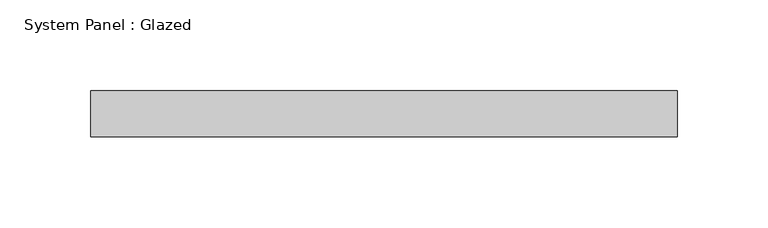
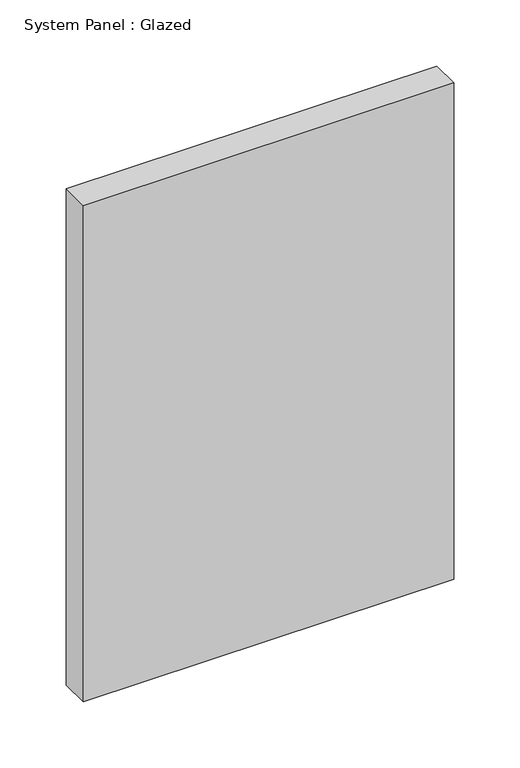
"""IFC4 building model written with IfcOpenShell, lengths in millimetres: plate geometry, System Panel : Glazed."""

from ifc_helpers import new_model, si_unit, origin, origin_with_axes, place, context, project, spatial, polyline, outline, extrude, source, transform, mapped, element, save


def system_panel_glazed_c366ada3(model_context):
    return source(origin(), model_context, "Body", "SweptSolid", [
        extrude(outline(polyline([(161.517716, -44.45), (-161.517716, -44.45), (-161.517716, -19.05), (161.517716, -19.05), (161.517716, -44.45)])), origin_with_axes(), (0.0, 0.0, 1.0), 457.2),
    ])


if __name__ == "__main__":
    model = new_model("IFC4")
    model_context = context("Model", 3, world=origin())
    ifc_project = project(units=[si_unit("LENGTHUNIT", "METRE", prefix="MILLI")], contexts=[model_context])
    site = spatial("IfcSite", under=ifc_project)
    building = spatial("IfcBuilding", under=site)
    placement = place(None, origin())
    system_panel_glazed_shape = system_panel_glazed_c366ada3(model_context)
    element("IfcPlate", 1, ObjectType="System Panel : Glazed", at=placement, inside=building, context=model_context, shape_type="MappedRepresentation", body=[
        mapped(system_panel_glazed_shape, transform((0.0, 0.0, 0.0), x_axis=(1.0, 0.0, 0.0), y_axis=(0.0, 1.0, 0.0), z_axis=(0.0, 0.0, 1.0))),
    ])
    save(model, "model.ifc")
